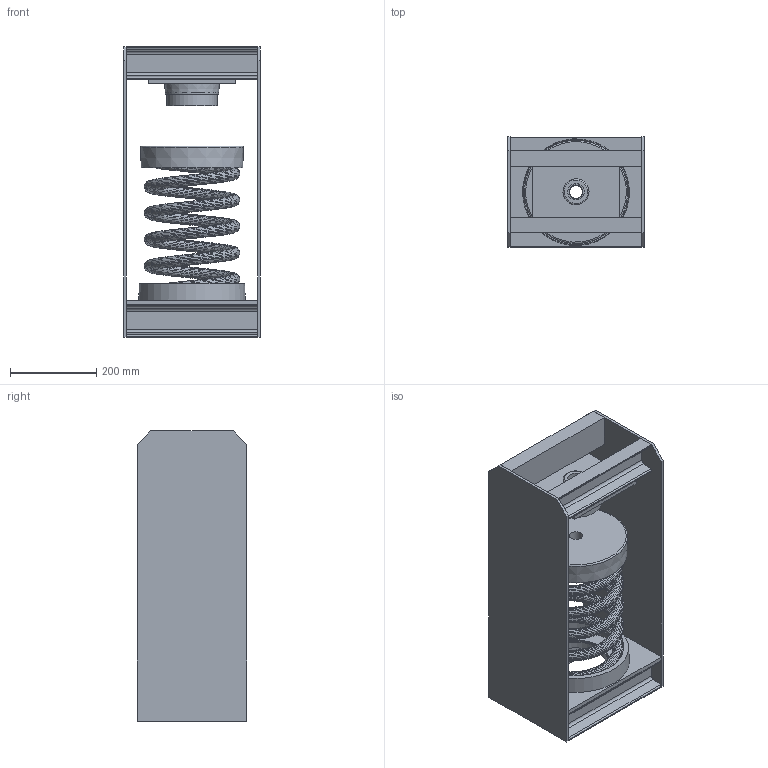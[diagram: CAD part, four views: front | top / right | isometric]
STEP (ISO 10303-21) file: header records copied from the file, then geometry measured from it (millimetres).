
FILE_DESCRIPTION(/* description */ (''),/* implementation_level */ '2;1');
FILE_NAME(/* name */ 'C:\001_Work\Designs\HANGER BOXES\30N 100 SERIES\30N-162-164, 187-188\30N-188.stp',/* time_stamp */ '2015-06-01T14:09:54-04:00',/* author */ ('rramoutar'),/* organization */ ('Mason Industries Inc.'),/* preprocessor_version */ 'ST-DEVELOPER v15.2',/* originating_system */ 'Autodesk Inventor 2014',/* authorisation */ '');
FILE_SCHEMA (('AUTOMOTIVE_DESIGN { 1 0 10303 214 3 1 1 }'));
Products named in the file (1): 30N-188
Bounding box: 317.5 x 254 x 673.1 mm (x, y, z)
Volume: 6178176.5 mm3; surface area: 2254414.6 mm2
Topology: 15 solids, 15 shells, 725 faces, 1523 edges, 842 vertices
Faces by surface type: bspline 506, plane 160, cylinder 42, cone 15, torus 2
Full cylindrical faces by diameter (mm): 30.162 x1, 31.75 x1, 38.1 x2, 47.625 x4, 60.325 x1, 107.95 x2, 117.475 x1, 122.237 x2, 146.05 x1, 150.812 x1, 152.4 x2, 155.575 x2, 220.662 x1, 225.425 x2, 227.012 x1
Entity records: 39176 total; most frequent: CARTESIAN_POINT 26928, ORIENTED_EDGE 2984, EDGE_CURVE 1492, B_SPLINE_CURVE_WITH_KNOTS 1016, DIRECTION 986, VERTEX_POINT 840, EDGE_LOOP 786, STYLED_ITEM 740
